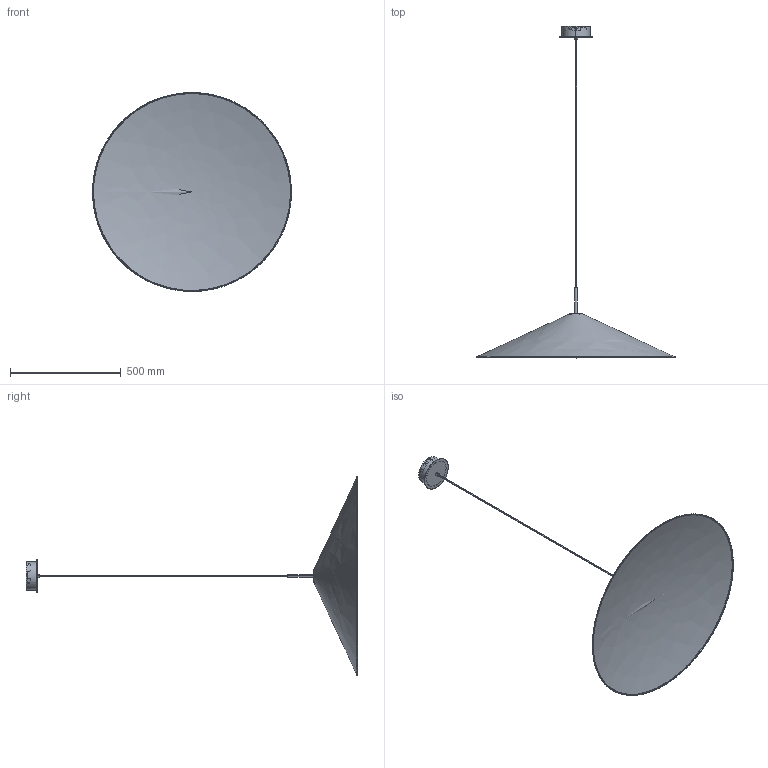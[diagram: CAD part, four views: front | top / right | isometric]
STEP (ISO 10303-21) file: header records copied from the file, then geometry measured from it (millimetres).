
FILE_DESCRIPTION(/* description */ (''),/* implementation_level */ '2;1');
FILE_NAME(/* name */ 'Brolly Pendant Ø900',/* time_stamp */ '2024-07-09T16:42:48+02:00',/* author */ (''),/* organization */ (''),/* preprocessor_version */ 'ST-DEVELOPER v16.5',/* originating_system */ 'Rhino 7.37',/* authorisation */ '');
FILE_SCHEMA (('CONFIG_CONTROL_DESIGN'));
Length unit declared in the file: millimetre
Products named in the file (3): Document; KANTARELL-3-1; CEILING-PLATE-1
Assembly tree (2 placements, depth 2):
  Document
    KANTARELL-3-1
    CEILING-PLATE-1
Bounding box: 897.67 x 1498 x 897.65 mm (x, y, z)
Volume: 1215625.6 mm3; surface area: 2839499 mm2
Topology: 9 solids, 13 shells, 213 faces, 559 edges, 351 vertices
Faces by surface type: cylinder 89, bspline 63, plane 61
Full cylindrical faces by diameter (mm): 10 x5, 151 x1
Entity records: 21620 total; most frequent: CARTESIAN_POINT 17794, ORIENTED_EDGE 1068, EDGE_CURVE 542, B_SPLINE_CURVE_WITH_KNOTS 360, VERTEX_POINT 350, EDGE_LOOP 258, ADVANCED_FACE 213, FACE_OUTER_BOUND 213
